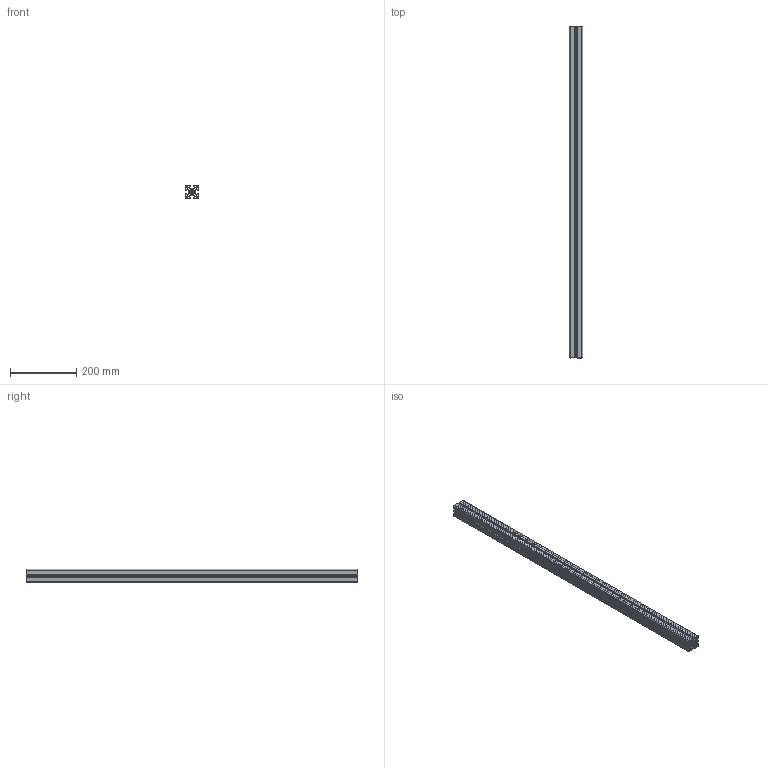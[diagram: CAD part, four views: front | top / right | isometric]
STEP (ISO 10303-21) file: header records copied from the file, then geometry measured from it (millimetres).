
FILE_DESCRIPTION (( 'STEP AP214' ), '1' );
FILE_NAME ('PEP4040-1000.STEP', '2019-10-30T01:30:02', ( '微软用户' ), ( '微软中国' ), 'SwSTEP 2.0', 'SolidWorks 2016', '' );
FILE_SCHEMA (( 'AUTOMOTIVE_DESIGN' ));
Length unit declared in the file: millimetre
Products named in the file (1): PEP4040-1000
Bounding box: 40 x 1000 x 40 mm (x, y, z)
Volume: 590295.6 mm3; surface area: 613173.6 mm2
Topology: 1 solids, 1 shells, 248 faces, 738 edges, 492 vertices
Faces by surface type: plane 130, cylinder 118
Entity records: 11176 total; most frequent: CARTESIAN_POINT 1479, ORIENTED_EDGE 1476, DIRECTION 1472, EDGE_CURVE 738, LINE 502, VECTOR 502, VERTEX_POINT 492, AXIS2_PLACEMENT_3D 485
